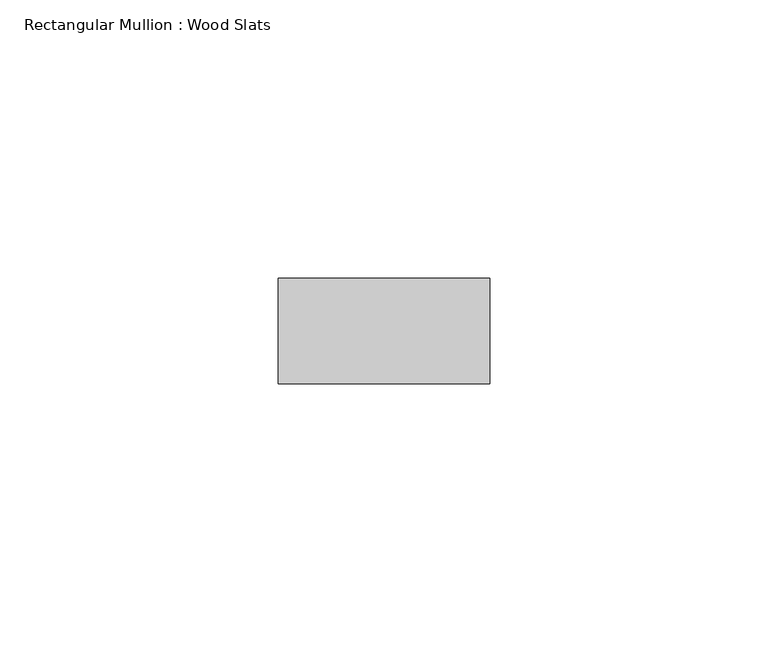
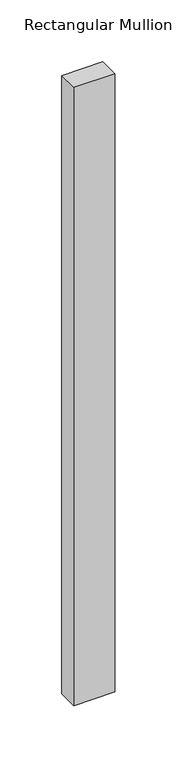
"""IFC4 building model written with IfcOpenShell, lengths in millimetres: member geometry, Rectangular Mullion : Wood Slats."""

from ifc_helpers import new_model, si_unit, frame, origin, place, context, project, spatial, polyline, outline, extrude, source, transform, mapped, element, save


def rectangular_mullion_wood_slats_095afc73(model_context):
    return source(origin(), model_context, "Body", "SweptSolid", [
        extrude(outline(polyline([(19.05, 9.525), (19.05, -9.525), (-19.05, -9.525), (-19.05, 9.525), (19.05, 9.525)])), frame((0.0, 0.0, -609.6), z_axis=(0.0, 0.0, 1.0), x_axis=(1.0, 0.0, 0.0)), (0.0, 0.0, 1.0), 609.6),
    ])


if __name__ == "__main__":
    model = new_model("IFC4")
    model_context = context("Model", 3, world=origin())
    ifc_project = project(units=[si_unit("LENGTHUNIT", "METRE", prefix="MILLI")], contexts=[model_context])
    site = spatial("IfcSite", under=ifc_project)
    building = spatial("IfcBuilding", under=site)
    placement = place(None, origin())
    rectangular_mullion_wood_slats_shape = rectangular_mullion_wood_slats_095afc73(model_context)
    element("IfcMember", 1, ObjectType="Rectangular Mullion : Wood Slats", at=placement, inside=building, context=model_context, shape_type="MappedRepresentation", body=[
        mapped(rectangular_mullion_wood_slats_shape, transform((0.0, 0.0, 0.0), x_axis=(1.0, 0.0, 0.0), y_axis=(0.0, 1.0, 0.0), z_axis=(0.0, 0.0, 1.0))),
    ])
    save(model, "model.ifc")
